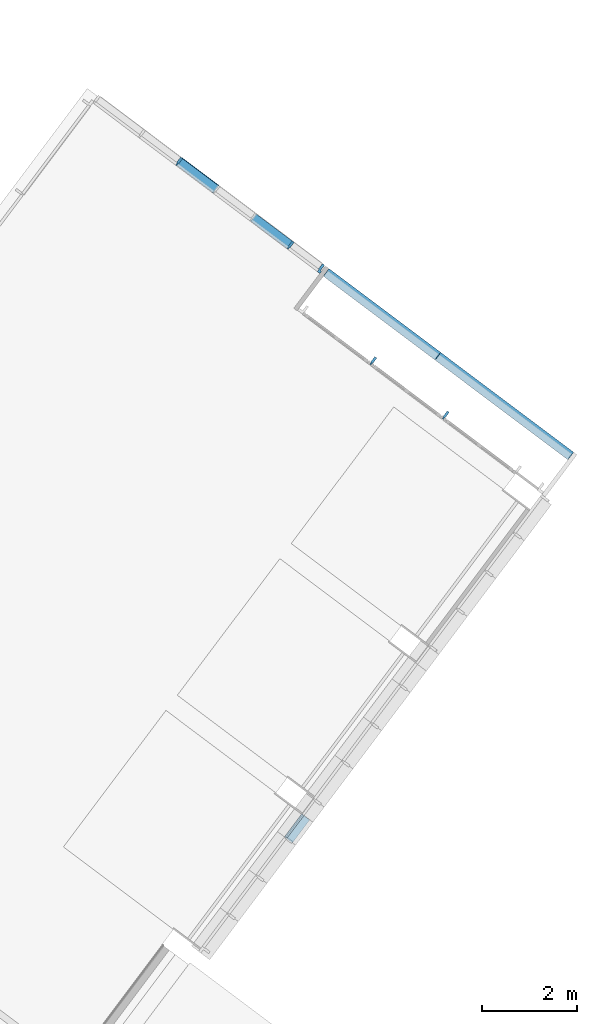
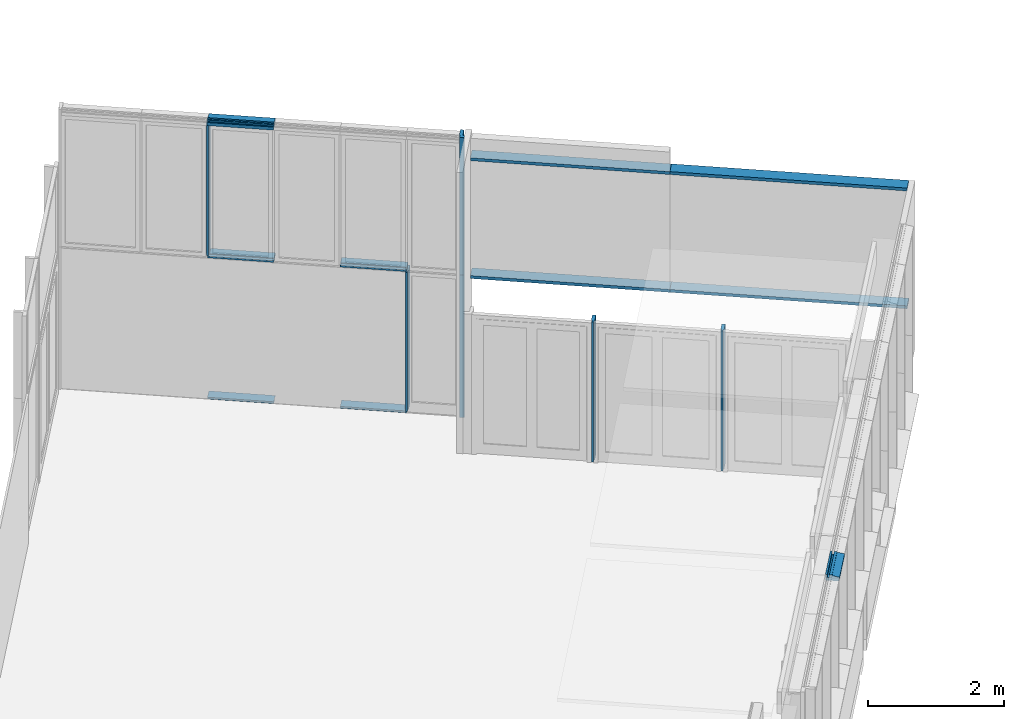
# One storey, part 4 of 15: 16 members, 5 elements without a shape of their own.
"""IFC2X3 building model written with IfcOpenShell, lengths in metres."""

from ifc_helpers import new_model, entity, si_unit, converted_unit, derived_unit, direction, frame, frame_2d, origin, place, context, subcontext, project, spatial, polyline, circle_curve, parameter, trimmed, segment, composite_curve, rectangle, outline, extrude, source, transform, mapped, material, type_object, type_shapes, element, aggregate, save


model = new_model("IFC2X3")

# Units and contexts
model_context = context("Model", 3, precision=1e-05, world=origin(), true_north=direction((6.123031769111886e-17, 1.0)))
body_context = subcontext(model_context, "Body", "Model", "MODEL_VIEW")
ifc_project = project(units=[si_unit("LENGTHUNIT", "METRE"), si_unit("AREAUNIT", "SQUARE_METRE"), si_unit("VOLUMEUNIT", "CUBIC_METRE"), converted_unit("PLANEANGLEUNIT", "DEGREE", entity("IfcRatioMeasure", 0.017453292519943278), si_unit("PLANEANGLEUNIT", "RADIAN"), dimensions=[0, 0, 0, 0, 0, 0, 0]), si_unit("MASSUNIT", "GRAM", prefix="KILO"), derived_unit("MASSDENSITYUNIT", [(si_unit("MASSUNIT", "GRAM", prefix="KILO"), 1), (si_unit("LENGTHUNIT", "METRE"), -3)]), derived_unit("IONCONCENTRATIONUNIT", [(si_unit("MASSUNIT", "GRAM", prefix="KILO"), 1), (si_unit("LENGTHUNIT", "METRE"), -3)]), derived_unit("MOMENTOFINERTIAUNIT", [(si_unit("LENGTHUNIT", "METRE"), 4)]), si_unit("TIMEUNIT", "SECOND"), si_unit("FREQUENCYUNIT", "HERTZ"), si_unit("THERMODYNAMICTEMPERATUREUNIT", "DEGREE_CELSIUS"), derived_unit("THERMALTRANSMITTANCEUNIT", [(si_unit("MASSUNIT", "GRAM", prefix="KILO"), 1), (si_unit("THERMODYNAMICTEMPERATUREUNIT", "KELVIN"), -1), (si_unit("TIMEUNIT", "SECOND"), -3)]), derived_unit("THERMALCONDUCTANCEUNIT", [(si_unit("MASSUNIT", "GRAM", prefix="KILO"), 1), (si_unit("THERMODYNAMICTEMPERATUREUNIT", "KELVIN"), -1), (si_unit("TIMEUNIT", "SECOND"), -3), (si_unit("LENGTHUNIT", "METRE"), 1)]), derived_unit("VOLUMETRICFLOWRATEUNIT", [(si_unit("LENGTHUNIT", "METRE"), 3), (si_unit("TIMEUNIT", "SECOND"), -1)]), derived_unit("MASSFLOWRATEUNIT", [(si_unit("MASSUNIT", "GRAM", prefix="KILO"), 1), (si_unit("TIMEUNIT", "SECOND"), -1)]), derived_unit("ROTATIONALFREQUENCYUNIT", [(si_unit("TIMEUNIT", "SECOND"), -1)]), si_unit("ELECTRICCURRENTUNIT", "AMPERE"), si_unit("ELECTRICVOLTAGEUNIT", "VOLT"), si_unit("POWERUNIT", "WATT"), si_unit("FORCEUNIT", "NEWTON", prefix="KILO"), si_unit("ILLUMINANCEUNIT", "LUX"), si_unit("LUMINOUSFLUXUNIT", "LUMEN"), si_unit("LUMINOUSINTENSITYUNIT", "CANDELA"), derived_unit("USERDEFINED", [(si_unit("MASSUNIT", "GRAM", prefix="KILO"), -1), (si_unit("LENGTHUNIT", "METRE"), -2), (si_unit("TIMEUNIT", "SECOND"), 3), (si_unit("LUMINOUSFLUXUNIT", "LUMEN"), 1)]), derived_unit("USERDEFINED", [(si_unit("MASSUNIT", "GRAM", prefix="KILO"), 1), (si_unit("TIMEUNIT", "SECOND"), -3), (si_unit("LENGTHUNIT", "METRE"), 3), (si_unit("ELECTRICCURRENTUNIT", "AMPERE"), -2)]), derived_unit("SOUNDPOWERUNIT", [(si_unit("MASSUNIT", "GRAM", prefix="KILO"), 1), (si_unit("TIMEUNIT", "SECOND"), -3), (si_unit("LENGTHUNIT", "METRE"), 2)]), derived_unit("SOUNDPRESSUREUNIT", [(si_unit("MASSUNIT", "GRAM", prefix="KILO"), 1), (si_unit("LENGTHUNIT", "METRE"), -1), (si_unit("TIMEUNIT", "SECOND"), -2)]), derived_unit("LINEARVELOCITYUNIT", [(si_unit("LENGTHUNIT", "METRE"), 1), (si_unit("TIMEUNIT", "SECOND"), -1)]), si_unit("PRESSUREUNIT", "PASCAL"), derived_unit("USERDEFINED", [(si_unit("MASSUNIT", "GRAM", prefix="KILO"), 1), (si_unit("LENGTHUNIT", "METRE"), -2), (si_unit("TIMEUNIT", "SECOND"), -2)]), derived_unit("LINEARFORCEUNIT", [(si_unit("MASSUNIT", "GRAM", prefix="KILO"), 1), (si_unit("TIMEUNIT", "SECOND"), -2)]), derived_unit("PLANARFORCEUNIT", [(si_unit("MASSUNIT", "GRAM", prefix="KILO"), 1), (si_unit("LENGTHUNIT", "METRE"), -1), (si_unit("TIMEUNIT", "SECOND"), -2)]), derived_unit("SPECIFICHEATCAPACITYUNIT", [(si_unit("THERMODYNAMICTEMPERATUREUNIT", "KELVIN"), -1), (si_unit("LENGTHUNIT", "METRE"), 2), (si_unit("TIMEUNIT", "SECOND"), -2)]), derived_unit("HEATINGVALUEUNIT", [(si_unit("LENGTHUNIT", "METRE"), 2), (si_unit("TIMEUNIT", "SECOND"), -2)]), derived_unit("VAPORPERMEABILITYUNIT", [(si_unit("LENGTHUNIT", "METRE"), -1), (si_unit("TIMEUNIT", "SECOND"), 1)]), derived_unit("DYNAMICVISCOSITYUNIT", [(si_unit("MASSUNIT", "GRAM", prefix="KILO"), 1), (si_unit("TIMEUNIT", "SECOND"), -1), (si_unit("LENGTHUNIT", "METRE"), -1)]), derived_unit("THERMALEXPANSIONCOEFFICIENTUNIT", [(si_unit("THERMODYNAMICTEMPERATUREUNIT", "KELVIN"), -1)]), derived_unit("MODULUSOFELASTICITYUNIT", [(si_unit("MASSUNIT", "GRAM", prefix="KILO"), 1), (si_unit("LENGTHUNIT", "METRE"), -1), (si_unit("TIMEUNIT", "SECOND"), -2)]), derived_unit("ISOTHERMALMOISTURECAPACITYUNIT", [(si_unit("LENGTHUNIT", "METRE"), 3), (si_unit("MASSUNIT", "GRAM", prefix="KILO"), -1)]), derived_unit("MOISTUREDIFFUSIVITYUNIT", [(si_unit("TIMEUNIT", "SECOND"), -1), (si_unit("LENGTHUNIT", "METRE"), 2)])], contexts=[model_context])

# Site, building, storey
site_placement = place(None, frame((0.0, 0.0, 235.0), z_axis=(0.0, 0.0, 1.0), x_axis=(-0.7996477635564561, 0.6004693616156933, 0.0)))
site = spatial("IfcSite", under=ifc_project, at=site_placement, Name="Default", CompositionType="ELEMENT")
building_placement = place(site_placement, origin())
building = spatial("IfcBuilding", under=site, at=building_placement, CompositionType="ELEMENT")
storey_placement = place(building_placement, frame((0.0, 0.0, -5.4499999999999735)))
storey = spatial("IfcBuildingStorey", under=building, at=storey_placement, Name="PS1- Gimnàs", CompositionType="ELEMENT", Elevation=-5.4499999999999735)

# Curtain wall, members
curtain_wall_type_1 = type_object("IfcCurtainWallType", Name="Muro cortina:MC- EXT- MCv1- Portes", PredefinedType="NOTDEFINED")
curtain_wall_1_placement = place(storey_placement, frame((0.0, 0.0, 5.4499999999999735)))
curtain_wall_1 = element("IfcCurtainWall", 1, at=curtain_wall_1_placement, inside=storey, type_object=curtain_wall_type_1, Name="Muro cortina:MC- EXT- MCv1- Portes", ObjectType="Muro cortina:MC- EXT- MCv1- Portes")
ifc_material = material(Name="_Alumini- T1- Perfil")
member_type_1 = type_object("IfcMemberType", Name="Montante rectangular:MC- Alu- 210x50 cm- Gimnas- Centre inferior", PredefinedType="MULLION", material=ifc_material)
shared_shape_1 = source(origin(), body_context, "Body", "SweptSolid", [
    extrude(rectangle(XDim=0.19999999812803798, YDim=0.052500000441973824, at=frame_2d((-3.469446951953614e-17, 0.0), x_axis=(1.0, 0.0))), frame((-0.026250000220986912, 0.03999999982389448, -2.946000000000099), z_axis=(0.0, 0.0, 1.0), x_axis=(0.0, -1.0, 0.0)), (0.0, 0.0, 1.0), 2.946000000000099),
])
type_shapes(member_type_1, [shared_shape_1])
member_1_placement = place(curtain_wall_1_placement, frame((6.6451476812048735, -39.36419176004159, -2.949999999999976), z_axis=(-1.0, 0.0, 0.0), x_axis=(0.0, 0.0, -1.0)))
member_1 = element("IfcMember", 2, at=member_1_placement, type_object=member_type_1, material=ifc_material, Name="Montante rectangular:MC- Alu- 210x50 cm- Gimnas- Centre inferior", ObjectType="Montante rectangular:MC- Alu- 210x50 cm- Gimnas- Centre inferior", context=body_context, shape_type="MappedRepresentation", body=[
    mapped(shared_shape_1, transform((0.0, 0.0, 0.0), scale=1.0)),
])
member_type_2 = type_object("IfcMemberType", Name="Montante rectangular:MC- Alu- 210x50 cm- Gimnas- Centre inferior", PredefinedType="MULLION", material=ifc_material)
shared_shape_2 = source(origin(), body_context, "Body", "SweptSolid", [
    extrude(rectangle(XDim=0.19999999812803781, YDim=0.052500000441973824, at=frame_2d((3.469446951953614e-17, 0.0), x_axis=(1.0, 0.0))), frame((0.0, 0.03999999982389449, -2.946000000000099), z_axis=(0.0, 0.0, 1.0), x_axis=(0.0, -1.0, 0.0)), (0.0, 0.0, 1.0), 2.946000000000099),
])
type_shapes(member_type_2, [shared_shape_2])
member_2_placement = place(curtain_wall_1_placement, frame((9.591147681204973, -39.3641917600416, -0.8162500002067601), z_axis=(1.0, 0.0, 0.0), x_axis=(0.0, 0.0, 1.0)))
member_2 = element("IfcMember", 3, at=member_2_placement, type_object=member_type_2, material=ifc_material, Name="Montante rectangular:MC- Alu- 210x50 cm- Gimnas- Centre inferior", ObjectType="Montante rectangular:MC- Alu- 210x50 cm- Gimnas- Centre inferior", context=body_context, shape_type="MappedRepresentation", body=[
    mapped(shared_shape_2, transform((0.0, 0.0, 0.0), scale=1.0)),
])
aggregate(curtain_wall_1, [member_1, member_2])

# Curtain wall, member
curtain_wall_type_2 = type_object("IfcCurtainWallType", Name="Muro cortina:MC- EXT- MCv1- lateral", PredefinedType="NOTDEFINED")
curtain_wall_2_placement = place(storey_placement, frame((0.0, 0.0, 5.4499999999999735)))
curtain_wall_2 = element("IfcCurtainWall", 4, at=curtain_wall_2_placement, inside=storey, type_object=curtain_wall_type_2, Name="Muro cortina:MC- EXT- MCv1- lateral", ObjectType="Muro cortina:MC- EXT- MCv1- lateral")
member_type_3 = type_object("IfcMemberType", Name="Montante rectangular:MC- Alu- 210x50 cm- Gimnas- Superior", PredefinedType="MULLION", material=ifc_material)
shared_shape_3 = source(origin(), body_context, "Body", "SweptSolid", [
    extrude(outline(polyline([(-0.09008951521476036, -0.0692243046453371), (0.10991048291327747, -0.0692243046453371), (0.10991048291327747, -0.016724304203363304), (-0.027089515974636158, -0.016724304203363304), (-0.027089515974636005, 0.030275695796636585), (0.006151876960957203, 0.030275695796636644), (0.006151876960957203, 0.01801675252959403), (0.11816142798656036, -0.0017335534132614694), (0.11816142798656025, -0.029506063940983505), (0.12116142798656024, -0.029506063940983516), (0.12116142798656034, 0.0007837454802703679), (0.009151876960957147, 0.020534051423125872), (0.009151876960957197, 0.033275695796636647), (-0.030089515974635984, 0.03327569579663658), (-0.030089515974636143, -0.016724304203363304), (-0.0620895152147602, -0.016724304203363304), (-0.06208951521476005, 0.03327569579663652), (-0.09008951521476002, 0.03327569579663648), (-0.09008951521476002, 0.030275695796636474), (-0.06508951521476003, 0.03027569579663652), (-0.06508951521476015, -0.013724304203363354), (-0.09008951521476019, -0.01372430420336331), (-0.09008951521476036, -0.0692243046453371)])), frame((-0.03327569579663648, -0.030089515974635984, -0.6062752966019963), z_axis=(0.0, 0.0, 1.0), x_axis=(0.0, -1.0, 0.0)), (0.0, 0.0, 1.0), 0.6062752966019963),
])
type_shapes(member_type_3, [shared_shape_3])
member_3_placement = place(curtain_wall_2_placement, frame((3.085147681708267, -29.358815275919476, -0.7900000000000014), z_axis=(0.0, 1.0, 0.0), x_axis=(0.0, 0.0, 1.0)))
member_3 = element("IfcMember", 5, at=member_3_placement, type_object=member_type_3, material=ifc_material, Name="Montante rectangular:MC- Alu- 210x50 cm- Gimnas- Superior", ObjectType="Montante rectangular:MC- Alu- 210x50 cm- Gimnas- Superior", context=body_context, shape_type="MappedRepresentation", body=[
    mapped(shared_shape_3, transform((0.0, 0.0, 0.0), scale=1.0)),
])
aggregate(curtain_wall_2, [member_3])

# Curtain wall, members
curtain_wall_type_3 = type_object("IfcCurtainWallType", Name="Muro cortina:MC- EXT- MCv1- frontal", PredefinedType="NOTDEFINED")
curtain_wall_3_placement = place(storey_placement, frame((0.0, 0.0, 5.4499999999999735)))
curtain_wall_3 = element("IfcCurtainWall", 6, at=curtain_wall_3_placement, inside=storey, type_object=curtain_wall_type_3, Name="Muro cortina:MC- EXT- MCv1- frontal", ObjectType="Muro cortina:MC- EXT- MCv1- frontal")
member_type_4 = type_object("IfcMemberType", Name="Montante rectangular:MC- Alu- 210x50 cm- Gimnas- Cantonada", PredefinedType="MULLION", material=ifc_material)
shared_shape_4 = source(origin(), body_context, "Body", "SweptSolid", [
    extrude(outline(polyline([(-0.019499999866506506, -0.03581250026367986), (0.11949999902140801, -0.03581250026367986), (0.11949999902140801, 0.01668750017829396), (-0.01950000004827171, 0.01668750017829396), (-0.01950000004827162, 0.043687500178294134), (-0.08049999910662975, 0.04368750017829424), (-0.08049999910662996, -0.024562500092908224), (-0.019499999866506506, -0.024562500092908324), (-0.019499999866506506, -0.03581250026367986)])), frame((-0.043687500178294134, -0.02049999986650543, -2.5500000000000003), z_axis=(0.0, 0.0, 1.0), x_axis=(0.0, -1.0, 0.0)), (0.0, 0.0, 1.0), 2.55),
])
type_shapes(member_type_4, [shared_shape_4])
member_4_placement = place(curtain_wall_3_placement, frame((9.681147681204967, -39.3651917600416, -5.4499999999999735), z_axis=(0.0, 0.0, -1.0), x_axis=(-1.0, 0.0, 0.0)))
member_4 = element("IfcMember", 7, at=member_4_placement, type_object=member_type_4, material=ifc_material, Name="Montante rectangular:MC- Alu- 210x50 cm- Gimnas- Cantonada", ObjectType="Montante rectangular:MC- Alu- 210x50 cm- Gimnas- Cantonada", context=body_context, shape_type="MappedRepresentation", body=[
    mapped(shared_shape_4, transform((0.0, 0.0, 0.0), scale=1.0)),
])
member_type_5 = type_object("IfcMemberType", Name="Montante rectangular:MC- Alu- 210x50 cm- Gimnas- Cantonada", PredefinedType="MULLION", material=ifc_material)
shared_shape_5 = source(origin(), body_context, "Body", "SweptSolid", [
    extrude(outline(polyline([(-0.019499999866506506, -0.03581250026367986), (0.11949999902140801, -0.03581250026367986), (0.11949999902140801, 0.01668750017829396), (-0.01950000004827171, 0.01668750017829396), (-0.01950000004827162, 0.043687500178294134), (-0.08049999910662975, 0.04368750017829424), (-0.08049999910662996, -0.024562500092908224), (-0.019499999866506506, -0.024562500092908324), (-0.019499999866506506, -0.03581250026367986)])), frame((-0.043687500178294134, -0.02049999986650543, -2.4599999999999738), z_axis=(0.0, 0.0, 1.0), x_axis=(0.0, -1.0, 0.0)), (0.0, 0.0, 1.0), 2.4599999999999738),
])
type_shapes(member_type_5, [shared_shape_5])
member_5_placement = place(curtain_wall_3_placement, frame((9.681147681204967, -39.3651917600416, -2.8999999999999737), z_axis=(0.0, 0.0, -1.0), x_axis=(-1.0, 0.0, 0.0)))
member_5 = element("IfcMember", 8, at=member_5_placement, type_object=member_type_5, material=ifc_material, Name="Montante rectangular:MC- Alu- 210x50 cm- Gimnas- Cantonada", ObjectType="Montante rectangular:MC- Alu- 210x50 cm- Gimnas- Cantonada", context=body_context, shape_type="MappedRepresentation", body=[
    mapped(shared_shape_5, transform((0.0, 0.0, 0.0), scale=1.0)),
])
member_type_6 = type_object("IfcMemberType", Name="Montante rectangular:MC- Alu- 210x50 cm- Gimnas- Superior", PredefinedType="MULLION", material=ifc_material)
shared_shape_6 = source(origin(), body_context, "Body", "SweptSolid", [
    extrude(outline(polyline([(-0.09008951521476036, -0.0692243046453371), (0.10991048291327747, -0.0692243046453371), (0.10991048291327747, -0.016724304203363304), (-0.027089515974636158, -0.016724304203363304), (-0.027089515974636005, 0.030275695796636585), (0.006151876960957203, 0.030275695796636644), (0.006151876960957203, 0.01801675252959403), (0.11816142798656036, -0.0017335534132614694), (0.11816142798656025, -0.029506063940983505), (0.12116142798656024, -0.029506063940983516), (0.12116142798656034, 0.0007837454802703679), (0.009151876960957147, 0.020534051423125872), (0.009151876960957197, 0.033275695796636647), (-0.030089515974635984, 0.03327569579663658), (-0.030089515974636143, -0.016724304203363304), (-0.0620895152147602, -0.016724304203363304), (-0.06208951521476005, 0.03327569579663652), (-0.09008951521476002, 0.03327569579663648), (-0.09008951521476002, 0.030275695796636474), (-0.06508951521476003, 0.03027569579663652), (-0.06508951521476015, -0.013724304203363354), (-0.09008951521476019, -0.01372430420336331), (-0.09008951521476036, -0.0692243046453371)])), frame((-0.03327569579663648, -0.030089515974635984, -0.9800000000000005), z_axis=(0.0, 0.0, 1.0), x_axis=(0.0, -1.0, 0.0)), (0.0, 0.0, 1.0), 0.9800000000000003),
])
type_shapes(member_type_6, [shared_shape_6])
member_6_placement = place(curtain_wall_3_placement, frame((12.49514768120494, -39.3651917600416, -0.4400000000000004), z_axis=(-1.0, 0.0, 0.0), x_axis=(0.0, 0.0, 1.0)))
member_6 = element("IfcMember", 9, at=member_6_placement, type_object=member_type_6, material=ifc_material, Name="Montante rectangular:MC- Alu- 210x50 cm- Gimnas- Superior", ObjectType="Montante rectangular:MC- Alu- 210x50 cm- Gimnas- Superior", context=body_context, shape_type="MappedRepresentation", body=[
    mapped(shared_shape_6, transform((0.0, 0.0, 0.0), scale=1.0)),
])
member_type_7 = type_object("IfcMemberType", Name="Montante rectangular:MC- Alu- 140x52,5 cm- Fa patis- Centre", PredefinedType="MULLION", material=ifc_material)
shared_shape_7 = source(origin(), body_context, "Body", "SweptSolid", [
    extrude(outline(polyline([(-0.021999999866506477, -0.026250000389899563), (0.11699999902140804, -0.026250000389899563), (0.11699999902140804, 0.026250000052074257), (-0.02200000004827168, 0.026250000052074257), (-0.02200000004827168, 0.015000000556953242), (-0.07299999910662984, 0.015000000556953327), (-0.07299999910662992, -0.01500000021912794), (-0.021999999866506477, -0.01500000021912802), (-0.021999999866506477, -0.026250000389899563)])), frame((0.0, -0.022999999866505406, -2.331249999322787), z_axis=(0.0, 0.0, 1.0), x_axis=(0.0, -1.0, 0.0)), (0.0, 0.0, 1.0), 2.331249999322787),
])
type_shapes(member_type_7, [shared_shape_7])
member_7_placement = place(curtain_wall_3_placement, frame((13.475147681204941, -39.3651917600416, -2.8737499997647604), z_axis=(0.0, 0.0, -1.0), x_axis=(-1.0, 0.0, 0.0)))
member_7 = element("IfcMember", 10, at=member_7_placement, type_object=member_type_7, material=ifc_material, Name="Montante rectangular:MC- Alu- 140x52,5 cm- Fa patis- Centre", ObjectType="Montante rectangular:MC- Alu- 140x52,5 cm- Fa patis- Centre", context=body_context, shape_type="MappedRepresentation", body=[
    mapped(shared_shape_7, transform((0.0, 0.0, 0.0), scale=1.0)),
])
member_type_8 = type_object("IfcMemberType", Name="Montante rectangular:MC- Alu- 140x52,5 cm- Gimnas- Inferior", PredefinedType="MULLION", material=ifc_material)
shared_shape_8 = source(origin(), body_context, "Body", "SweptSolid", [
    extrude(outline(composite_curve([segment(polyline([(-0.12919138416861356, -0.017967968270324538), (-0.0471913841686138, -0.01796796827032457)]), True, "CONTINUOUS"), segment(polyline([(-0.0471913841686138, -0.017967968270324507), (0.04598801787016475, -0.00957585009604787)]), True, "CONTINUOUS"), segment(trimmed(circle_curve(frame_2d((0.04580861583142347, -0.007583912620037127), x_axis=(0.08970101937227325, -0.995968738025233)), 0.0019999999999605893), [parameter(0.0)], [parameter(84.8535928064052)], True, "PARAMETER"), True, "CONTINUOUS"), segment(polyline([(0.04780861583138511, -0.007583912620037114), (0.04780861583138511, 0.007412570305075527)]), True, "CONTINUOUS"), segment(trimmed(circle_curve(frame_2d((0.04580861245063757, 0.007412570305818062), x_axis=(1.0, 0.0)), 0.0020000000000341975), [parameter(0.0)], [parameter(90.00000002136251)], True, "PARAMETER"), True, "CONTINUOUS"), segment(polyline([(0.04580861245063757, 0.00941257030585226), (0.037808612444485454, 0.009412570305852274)]), True, "CONTINUOUS"), segment(polyline([(0.037808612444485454, 0.009412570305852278), (0.037808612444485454, 0.0074125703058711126)]), True, "CONTINUOUS"), segment(polyline([(0.037808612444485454, 0.0074125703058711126), (0.045308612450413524, 0.007412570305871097)]), True, "CONTINUOUS"), segment(trimmed(circle_curve(frame_2d((0.045308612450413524, 0.006912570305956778), x_axis=(0.0, 1.0)), 0.0004999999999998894), [parameter(269.99999999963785)], [parameter(0.0)], True, "PARAMETER"), False, "CONTINUOUS"), segment(polyline([(0.04580861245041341, 0.006912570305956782), (0.045808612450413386, -0.00758391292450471)]), True, "CONTINUOUS"), segment(polyline([(0.045808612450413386, -0.00758391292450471), (-0.04719138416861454, -0.01595987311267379)]), True, "CONTINUOUS"), segment(polyline([(-0.04719138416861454, -0.015959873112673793), (-0.047191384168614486, 0.014332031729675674)]), True, "CONTINUOUS"), segment(polyline([(-0.047191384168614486, 0.01433203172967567), (-0.1291913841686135, 0.014332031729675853)]), True, "CONTINUOUS"), segment(polyline([(-0.1291913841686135, 0.014332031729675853), (-0.12919138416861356, -0.017967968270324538)]), True, "CONTINUOUS")], self_intersect=False)), frame((-0.014332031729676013, -0.09219138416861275, -0.9800000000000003), z_axis=(0.0, 0.0, 1.0), x_axis=(0.0, -1.0, 0.0)), (0.0, 0.0, 1.0), 0.9800000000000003),
])
type_shapes(member_type_8, [shared_shape_8])
member_8_placement = place(curtain_wall_3_placement, frame((11.51514768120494, -39.3651917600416, -5.4499999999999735), z_axis=(1.0, 0.0, 0.0), x_axis=(0.0, 0.0, -1.0)))
member_8 = element("IfcMember", 11, at=member_8_placement, type_object=member_type_8, material=ifc_material, Name="Montante rectangular:MC- Alu- 140x52,5 cm- Gimnas- Inferior", ObjectType="Montante rectangular:MC- Alu- 140x52,5 cm- Gimnas- Inferior", context=body_context, shape_type="MappedRepresentation", body=[
    mapped(shared_shape_8, transform((0.0, 0.0, 0.0), scale=1.0)),
])
member_type_9 = type_object("IfcMemberType", Name="Montante rectangular:MC- Alu- 140x52,5 cm- Gimnas- Inferior", PredefinedType="MULLION", material=ifc_material)
shared_shape_9 = source(origin(), body_context, "Body", "SweptSolid", [
    extrude(outline(composite_curve([segment(polyline([(-0.12919138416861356, -0.017967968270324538), (-0.0471913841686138, -0.01796796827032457)]), True, "CONTINUOUS"), segment(polyline([(-0.0471913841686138, -0.017967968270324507), (0.04598801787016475, -0.00957585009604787)]), True, "CONTINUOUS"), segment(trimmed(circle_curve(frame_2d((0.04580861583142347, -0.007583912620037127), x_axis=(0.08970101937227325, -0.995968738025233)), 0.0019999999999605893), [parameter(0.0)], [parameter(84.8535928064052)], True, "PARAMETER"), True, "CONTINUOUS"), segment(polyline([(0.04780861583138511, -0.007583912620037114), (0.04780861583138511, 0.007412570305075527)]), True, "CONTINUOUS"), segment(trimmed(circle_curve(frame_2d((0.04580861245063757, 0.007412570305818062), x_axis=(1.0, 0.0)), 0.0020000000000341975), [parameter(0.0)], [parameter(90.00000002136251)], True, "PARAMETER"), True, "CONTINUOUS"), segment(polyline([(0.04580861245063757, 0.00941257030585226), (0.037808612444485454, 0.009412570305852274)]), True, "CONTINUOUS"), segment(polyline([(0.037808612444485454, 0.009412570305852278), (0.037808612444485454, 0.0074125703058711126)]), True, "CONTINUOUS"), segment(polyline([(0.037808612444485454, 0.0074125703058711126), (0.045308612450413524, 0.007412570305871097)]), True, "CONTINUOUS"), segment(trimmed(circle_curve(frame_2d((0.045308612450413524, 0.006912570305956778), x_axis=(0.0, 1.0)), 0.0004999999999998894), [parameter(269.99999999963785)], [parameter(0.0)], True, "PARAMETER"), False, "CONTINUOUS"), segment(polyline([(0.04580861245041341, 0.006912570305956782), (0.045808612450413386, -0.00758391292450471)]), True, "CONTINUOUS"), segment(polyline([(0.045808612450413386, -0.00758391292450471), (-0.04719138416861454, -0.01595987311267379)]), True, "CONTINUOUS"), segment(polyline([(-0.04719138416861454, -0.015959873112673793), (-0.047191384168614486, 0.014332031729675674)]), True, "CONTINUOUS"), segment(polyline([(-0.047191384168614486, 0.01433203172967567), (-0.1291913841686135, 0.014332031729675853)]), True, "CONTINUOUS"), segment(polyline([(-0.1291913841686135, 0.014332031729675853), (-0.12919138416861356, -0.017967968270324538)]), True, "CONTINUOUS")], self_intersect=False)), frame((-0.014332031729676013, -0.09219138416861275, -0.9800000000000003), z_axis=(0.0, 0.0, 1.0), x_axis=(0.0, -1.0, 0.0)), (0.0, 0.0, 1.0), 0.9800000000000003),
])
type_shapes(member_type_9, [shared_shape_9])
member_9_placement = place(curtain_wall_3_placement, frame((13.475147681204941, -39.3651917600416, -5.4499999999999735), z_axis=(1.0, 0.0, 0.0), x_axis=(0.0, 0.0, -1.0)))
member_9 = element("IfcMember", 12, at=member_9_placement, type_object=member_type_9, material=ifc_material, Name="Montante rectangular:MC- Alu- 140x52,5 cm- Gimnas- Inferior", ObjectType="Montante rectangular:MC- Alu- 140x52,5 cm- Gimnas- Inferior", context=body_context, shape_type="MappedRepresentation", body=[
    mapped(shared_shape_9, transform((0.0, 0.0, 0.0), scale=1.0)),
])
member_type_10 = type_object("IfcMemberType", Name="Montante rectangular:MC- Alu- 140x52,5 cm- Fa patis- Centre", PredefinedType="MULLION", material=ifc_material)
shared_shape_10 = source(origin(), body_context, "Body", "SweptSolid", [
    extrude(outline(polyline([(-0.021999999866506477, -0.026250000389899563), (0.11699999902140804, -0.026250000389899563), (0.11699999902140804, 0.026250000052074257), (-0.02200000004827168, 0.026250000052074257), (-0.02200000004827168, 0.015000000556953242), (-0.07299999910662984, 0.015000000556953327), (-0.07299999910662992, -0.01500000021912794), (-0.021999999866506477, -0.01500000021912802), (-0.021999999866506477, -0.026250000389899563)])), frame((0.0, -0.022999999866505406, -2.491449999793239), z_axis=(0.0, 0.0, 1.0), x_axis=(0.0, -1.0, 0.0)), (0.0, 0.0, 1.0), 2.491449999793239),
])
type_shapes(member_type_10, [shared_shape_10])
member_10_placement = place(curtain_wall_3_placement, frame((10.53514768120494, -39.3651917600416, -5.417699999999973), z_axis=(0.0, 0.0, -1.0), x_axis=(-1.0, 0.0, 0.0)))
member_10 = element("IfcMember", 13, at=member_10_placement, type_object=member_type_10, material=ifc_material, Name="Montante rectangular:MC- Alu- 140x52,5 cm- Fa patis- Centre", ObjectType="Montante rectangular:MC- Alu- 140x52,5 cm- Fa patis- Centre", context=body_context, shape_type="MappedRepresentation", body=[
    mapped(shared_shape_10, transform((0.0, 0.0, 0.0), scale=1.0)),
])
member_type_11 = type_object("IfcMemberType", Name="Montante rectangular:MC- Alu- 140x52,5 cm- Fa patis- Centre", PredefinedType="MULLION", material=ifc_material)
shared_shape_11 = source(origin(), body_context, "Body", "SweptSolid", [
    extrude(outline(polyline([(-0.021999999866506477, -0.026250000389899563), (0.11699999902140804, -0.026250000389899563), (0.11699999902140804, 0.026250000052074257), (-0.02200000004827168, 0.026250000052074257), (-0.02200000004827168, 0.015000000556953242), (-0.07299999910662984, 0.015000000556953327), (-0.07299999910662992, -0.01500000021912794), (-0.021999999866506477, -0.01500000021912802), (-0.021999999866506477, -0.026250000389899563)])), frame((0.0, -0.022999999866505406, -0.9800000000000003), z_axis=(0.0, 0.0, 1.0), x_axis=(0.0, -1.0, 0.0)), (0.0, 0.0, 1.0), 0.9800000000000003),
])
type_shapes(member_type_11, [shared_shape_11])
member_11_placement = place(curtain_wall_3_placement, frame((10.53514768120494, -39.3651917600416, -2.8999999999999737), z_axis=(-1.0, 0.0, 0.0), x_axis=(0.0, 0.0, 1.0)))
member_11 = element("IfcMember", 14, at=member_11_placement, type_object=member_type_11, material=ifc_material, Name="Montante rectangular:MC- Alu- 140x52,5 cm- Fa patis- Centre", ObjectType="Montante rectangular:MC- Alu- 140x52,5 cm- Fa patis- Centre", context=body_context, shape_type="MappedRepresentation", body=[
    mapped(shared_shape_11, transform((0.0, 0.0, 0.0), scale=1.0)),
])
member_12_placement = place(curtain_wall_3_placement, frame((12.49514768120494, -39.3651917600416, -2.8999999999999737), z_axis=(-1.0, 0.0, 0.0), x_axis=(0.0, 0.0, 1.0)))
member_12 = element("IfcMember", 15, at=member_12_placement, type_object=member_type_11, material=ifc_material, Name="Montante rectangular:MC- Alu- 140x52,5 cm- Fa patis- Centre", ObjectType="Montante rectangular:MC- Alu- 140x52,5 cm- Fa patis- Centre", context=body_context, shape_type="MappedRepresentation", body=[
    mapped(shared_shape_11, transform((0.0, 0.0, 0.0), scale=1.0)),
])
aggregate(curtain_wall_3, [member_4, member_5, member_8, member_6, member_9, member_7, member_10, member_11, member_12])

curtain_wall_4_placement = place(storey_placement, frame((0.0, 0.0, 5.4499999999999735)))
curtain_wall_4 = element("IfcCurtainWall", 16, at=curtain_wall_4_placement, inside=storey, type_object=curtain_wall_type_1, Name="Muro cortina:MC- EXT- MCv1- Portes", ObjectType="Muro cortina:MC- EXT- MCv1- Portes")
member_type_12 = type_object("IfcMemberType", Name="Montante rectangular:MC- Alu- 210x50 cm- Gimnas- Centre inferior", PredefinedType="MULLION", material=ifc_material)
shared_shape_12 = source(origin(), body_context, "Body", "SweptSolid", [
    extrude(rectangle(XDim=0.19999999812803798, YDim=0.052500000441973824, at=frame_2d((-3.469446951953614e-17, 0.0), x_axis=(1.0, 0.0))), frame((-0.026250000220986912, 0.03999999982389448, -3.503999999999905), z_axis=(0.0, 0.0, 1.0), x_axis=(0.0, -1.0, 0.0)), (0.0, 0.0, 1.0), 3.503999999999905),
])
type_shapes(member_type_12, [shared_shape_12])
member_13_placement = place(curtain_wall_4_placement, frame((3.141147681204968, -39.364191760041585, -2.949999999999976), z_axis=(-1.0, 0.0, 0.0), x_axis=(0.0, 0.0, -1.0)))
member_13 = element("IfcMember", 17, at=member_13_placement, type_object=member_type_12, material=ifc_material, Name="Montante rectangular:MC- Alu- 210x50 cm- Gimnas- Centre inferior", ObjectType="Montante rectangular:MC- Alu- 210x50 cm- Gimnas- Centre inferior", context=body_context, shape_type="MappedRepresentation", body=[
    mapped(shared_shape_12, transform((0.0, 0.0, 0.0), scale=1.0)),
])
member_type_13 = type_object("IfcMemberType", Name="Montante rectangular:MC- Alu- 210x50 cm- Gimnas- Centre inferior", PredefinedType="MULLION", material=ifc_material)
shared_shape_13 = source(origin(), body_context, "Body", "SweptSolid", [
    extrude(rectangle(XDim=0.19999999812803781, YDim=0.052500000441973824, at=frame_2d((3.469446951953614e-17, 0.0), x_axis=(1.0, 0.0))), frame((-0.026250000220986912, 0.03999999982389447, -3.503999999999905), z_axis=(0.0, 0.0, 1.0), x_axis=(0.0, -1.0, 0.0)), (0.0, 0.0, 1.0), 3.503999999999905),
])
type_shapes(member_type_13, [shared_shape_13])
member_14_placement = place(curtain_wall_4_placement, frame((6.6451476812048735, -39.36419176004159, -0.79), z_axis=(1.0, 0.0, 0.0), x_axis=(0.0, 0.0, 1.0)))
member_14 = element("IfcMember", 18, at=member_14_placement, type_object=member_type_13, material=ifc_material, Name="Montante rectangular:MC- Alu- 210x50 cm- Gimnas- Centre inferior", ObjectType="Montante rectangular:MC- Alu- 210x50 cm- Gimnas- Centre inferior", context=body_context, shape_type="MappedRepresentation", body=[
    mapped(shared_shape_13, transform((0.0, 0.0, 0.0), scale=1.0)),
])
aggregate(curtain_wall_4, [member_13, member_14])

curtain_wall_5_placement = place(storey_placement, frame((0.0, 0.0, 5.4499999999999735)))
curtain_wall_5 = element("IfcCurtainWall", 19, at=curtain_wall_5_placement, inside=storey, type_object=curtain_wall_type_1, Name="Muro cortina:MC- EXT- MCv1- Portes", ObjectType="Muro cortina:MC- EXT- MCv1- Portes")
member_type_14 = type_object("IfcMemberType", Name="Montante rectangular:MC- Alu- 210x50 cm- Gimnas- Centre", PredefinedType="MULLION", material=ifc_material)
shared_shape_14 = source(origin(), body_context, "Body", "SweptSolid", [
    extrude(outline(polyline([(-0.021999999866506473, -0.026250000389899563), (0.11699999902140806, -0.026250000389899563), (0.11699999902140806, 0.026250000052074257), (-0.022000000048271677, 0.026250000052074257), (-0.022000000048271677, 0.015000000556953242), (-0.07299999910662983, 0.015000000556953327), (-0.07299999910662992, -0.01500000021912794), (-0.021999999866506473, -0.01500000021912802), (-0.021999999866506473, -0.026250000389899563)])), frame((0.0, -0.022999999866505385, -2.499999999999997), z_axis=(0.0, 0.0, 1.0), x_axis=(0.0, -1.0, 0.0)), (0.0, 0.0, 1.0), 2.499999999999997),
])
type_shapes(member_type_14, [shared_shape_14])
member_15_placement = place(curtain_wall_5_placement, frame((7.677041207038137, -38.46019175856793, -5.449999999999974), z_axis=(0.0, 0.0, -1.0), x_axis=(-1.0, 0.0, 0.0)))
member_15 = element("IfcMember", 20, at=member_15_placement, type_object=member_type_14, material=ifc_material, Name="Montante rectangular:MC- Alu- 210x50 cm- Gimnas- Centre", ObjectType="Montante rectangular:MC- Alu- 210x50 cm- Gimnas- Centre", context=body_context, shape_type="MappedRepresentation", body=[
    mapped(shared_shape_14, transform((0.0, 0.0, 0.0), scale=1.0)),
])
member_16_placement = place(curtain_wall_5_placement, frame((5.767147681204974, -38.46019175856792, -5.449999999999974), z_axis=(0.0, 0.0, -1.0), x_axis=(-1.0, 0.0, 0.0)))
member_16 = element("IfcMember", 21, at=member_16_placement, type_object=member_type_14, material=ifc_material, Name="Montante rectangular:MC- Alu- 210x50 cm- Gimnas- Centre", ObjectType="Montante rectangular:MC- Alu- 210x50 cm- Gimnas- Centre", context=body_context, shape_type="MappedRepresentation", body=[
    mapped(shared_shape_14, transform((0.0, 0.0, 0.0), scale=1.0)),
])
aggregate(curtain_wall_5, [member_15, member_16])

save(model, "model.ifc")
